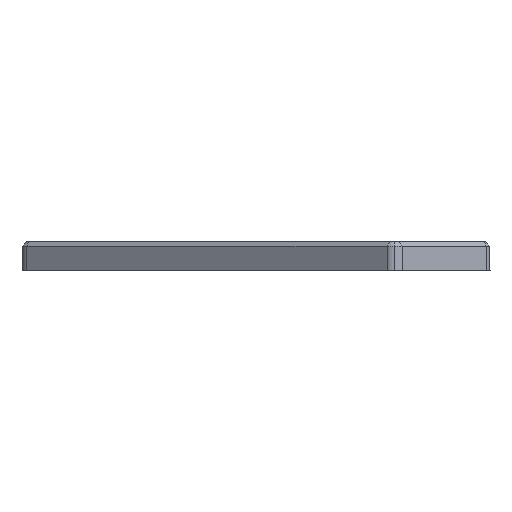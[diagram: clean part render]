
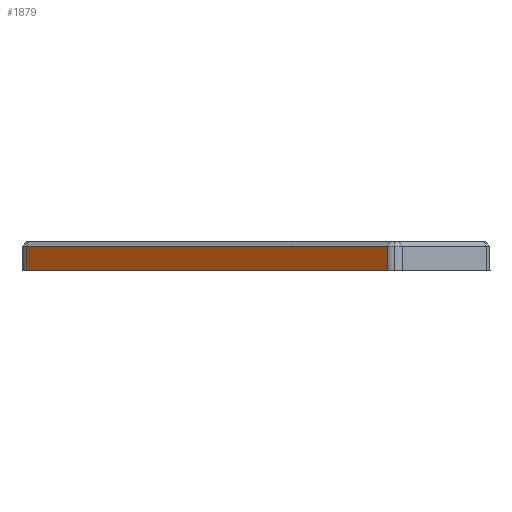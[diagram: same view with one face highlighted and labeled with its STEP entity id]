
A CAD part, left-side view. The second image highlights one B-rep face of the part: STEP entity #1879.
In plain terms, the highlighted planar face has unit normal (-0.791, 0.612, 0).
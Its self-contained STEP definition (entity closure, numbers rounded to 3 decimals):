
#1 = VERTEX_POINT ( 'NONE', #107 ) ;
#35 = EDGE_CURVE ( 'NONE', #1933, #1, #812, .T. ) ;
#85 = DIRECTION ( 'NONE',  ( 0.612, 0.791, 0. ) ) ;
#107 = CARTESIAN_POINT ( 'NONE',  ( -107.776, -9.28, 3.525 ) ) ;
#137 = CARTESIAN_POINT ( 'NONE',  ( -88.032, 16.24, 1.825 ) ) ;
#511 = VERTEX_POINT ( 'NONE', #137 ) ;
#658 = CARTESIAN_POINT ( 'NONE',  ( -87.792, 16.55, 1.825 ) ) ;
#675 = CARTESIAN_POINT ( 'NONE',  ( -88.032, 16.24, 3.525 ) ) ;
#722 = VERTEX_POINT ( 'NONE', #675 ) ;
#730 = ORIENTED_EDGE ( 'NONE', *, *, #1565, .T. ) ;
#779 = DIRECTION ( 'NONE',  ( 0., 0., 1. ) ) ;
#812 = LINE ( 'NONE', #2098, #1147 ) ;
#833 = CARTESIAN_POINT ( 'NONE',  ( -88.032, 16.24, 116.984 ) ) ;
#837 = ORIENTED_EDGE ( 'NONE', *, *, #1932, .T. ) ;
#890 = EDGE_LOOP ( 'NONE', ( #1992, #837, #2140, #730 ) ) ;
#984 = CARTESIAN_POINT ( 'NONE',  ( -87.792, 16.55, 116.984 ) ) ;
#1039 = VECTOR ( 'NONE', #2012, 1000. ) ;
#1147 = VECTOR ( 'NONE', #779, 1000. ) ;
#1216 = LINE ( 'NONE', #833, #1039 ) ;
#1252 = AXIS2_PLACEMENT_3D ( 'NONE', #984, #1317, #1325 ) ;
#1254 = FACE_OUTER_BOUND ( 'NONE', #890, .T. ) ;
#1317 = DIRECTION ( 'NONE',  ( 0.791, -0.612, 0. ) ) ;
#1325 = DIRECTION ( 'NONE',  ( 0.612, 0.791, 0. ) ) ;
#1374 = CARTESIAN_POINT ( 'NONE',  ( -88.032, 16.24, 3.525 ) ) ;
#1420 = VECTOR ( 'NONE', #1829, 1000. ) ;
#1422 = LINE ( 'NONE', #1374, #1505 ) ;
#1488 = PLANE ( 'NONE',  #1252 ) ;
#1505 = VECTOR ( 'NONE', #85, 1000. ) ;
#1565 = EDGE_CURVE ( 'NONE', #1, #722, #1422, .T. ) ;
#1808 = CARTESIAN_POINT ( 'NONE',  ( -107.776, -9.28, 1.825 ) ) ;
#1829 = DIRECTION ( 'NONE',  ( -0.612, -0.791, 0. ) ) ;
#1879 = ADVANCED_FACE ( 'NONE', ( #1254 ), #1488, .F. ) ;
#1932 = EDGE_CURVE ( 'NONE', #511, #1933, #2142, .T. ) ;
#1933 = VERTEX_POINT ( 'NONE', #1808 ) ;
#1992 = ORIENTED_EDGE ( 'NONE', *, *, #2077, .T. ) ;
#2012 = DIRECTION ( 'NONE',  ( 0., 0., -1. ) ) ;
#2077 = EDGE_CURVE ( 'NONE', #722, #511, #1216, .T. ) ;
#2098 = CARTESIAN_POINT ( 'NONE',  ( -107.776, -9.28, 116.984 ) ) ;
#2140 = ORIENTED_EDGE ( 'NONE', *, *, #35, .T. ) ;
#2142 = LINE ( 'NONE', #658, #1420 ) ;
